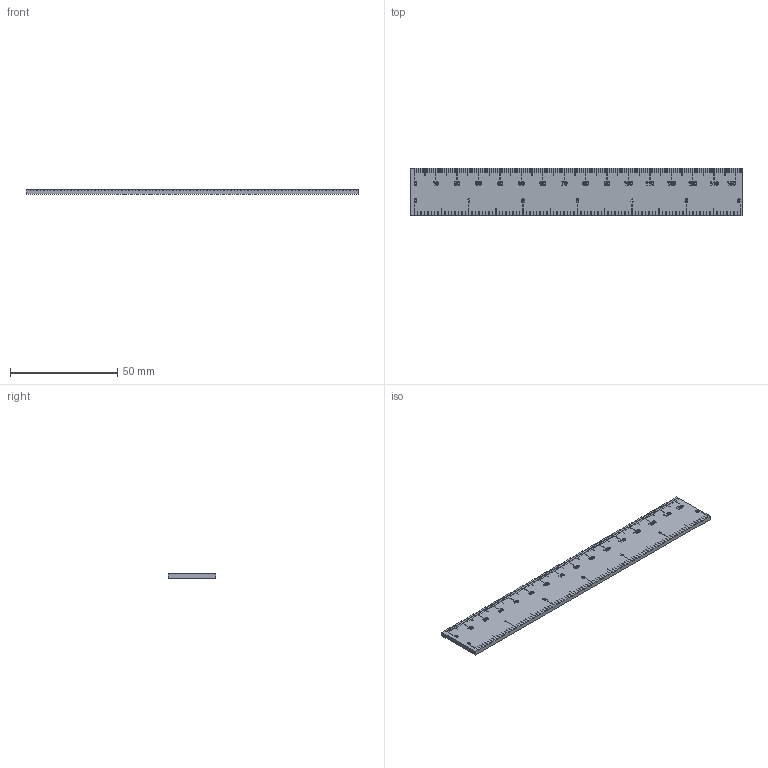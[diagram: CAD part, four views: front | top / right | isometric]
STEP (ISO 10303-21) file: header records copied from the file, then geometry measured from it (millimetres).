
FILE_DESCRIPTION(('Open CASCADE Model'),'2;1');
FILE_NAME('Open CASCADE Shape Model','2026-11-25T12:36:51',('Author'),( 'Open CASCADE'),'Open CASCADE STEP processor 8.0','Open CASCADE 8.0' ,'Unknown');
FILE_SCHEMA(('AP242_MANAGED_MODEL_BASED_3D_ENGINEERING_MIM_LF {1 0 10303 442 1 1 4 }' ));
Products named in the file (1): Engraved ruler
Bounding box: 155 x 22 x 2 mm (x, y, z)
Volume: 6794.5 mm3; surface area: 7837.5 mm2
Topology: 1 solids, 1 shells, 1800 faces, 5184 edges, 3456 vertices
Faces by surface type: plane 1225, extrusion 575
Entity records: 134679 total; most frequent: CARTESIAN_POINT 39679, DIRECTION 13904, VECTOR 11452, LINE 10877, ORIENTED_EDGE 10368, PCURVE 10368, DEFINITIONAL_REPRESENTATION 10368, B_SPLINE_CURVE_WITH_KNOTS 5250
